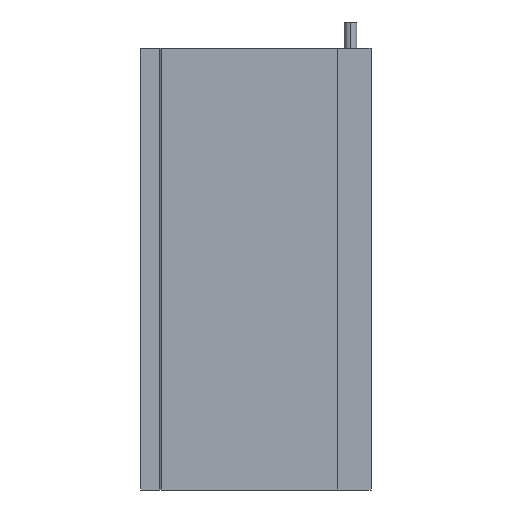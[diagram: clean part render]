
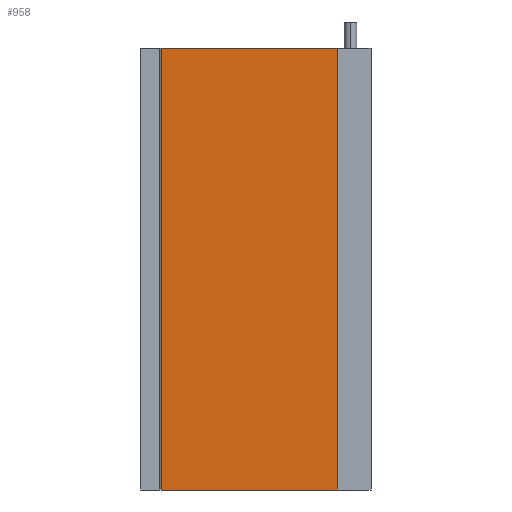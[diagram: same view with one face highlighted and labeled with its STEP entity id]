
A CAD part, left-side view. The second image highlights one B-rep face of the part: STEP entity #958.
In plain terms, the highlighted planar face has unit normal (-1, 0, 0).
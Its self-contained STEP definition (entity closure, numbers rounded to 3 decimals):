
#31 = CARTESIAN_POINT ( 'NONE',  ( -5.31, -15.5, 0. ) ) ;
#33 = DIRECTION ( 'NONE',  ( 0., -1., 0. ) ) ;
#56 = ORIENTED_EDGE ( 'NONE', *, *, #183, .T. ) ;
#123 = DIRECTION ( 'NONE',  ( 0., 1., 0. ) ) ;
#183 = EDGE_CURVE ( 'NONE', #1629, #631, #1781, .T. ) ;
#213 = DIRECTION ( 'NONE',  ( 0., -1., 0. ) ) ;
#408 = DIRECTION ( 'NONE',  ( 0., 0., -1. ) ) ;
#421 = ORIENTED_EDGE ( 'NONE', *, *, #1862, .F. ) ;
#507 = VERTEX_POINT ( 'NONE', #1021 ) ;
#558 = VERTEX_POINT ( 'NONE', #1998 ) ;
#631 = VERTEX_POINT ( 'NONE', #31 ) ;
#718 = CARTESIAN_POINT ( 'NONE',  ( -5.31, -149.9, 0. ) ) ;
#775 = CARTESIAN_POINT ( 'NONE',  ( -5.31, -15.5, 337. ) ) ;
#788 = PLANE ( 'NONE',  #889 ) ;
#794 = VECTOR ( 'NONE', #33, 1000. ) ;
#889 = AXIS2_PLACEMENT_3D ( 'NONE', #1136, #1664, #123 ) ;
#958 = ADVANCED_FACE ( 'NONE', ( #1616 ), #788, .F. ) ;
#1021 = CARTESIAN_POINT ( 'NONE',  ( -5.31, -149.9, 0. ) ) ;
#1117 = EDGE_LOOP ( 'NONE', ( #1277, #1711, #421, #56 ) ) ;
#1130 = CARTESIAN_POINT ( 'NONE',  ( -5.31, -149.9, 337. ) ) ;
#1136 = CARTESIAN_POINT ( 'NONE',  ( -5.31, -149.9, 337. ) ) ;
#1151 = VECTOR ( 'NONE', #408, 1000. ) ;
#1170 = LINE ( 'NONE', #1726, #794 ) ;
#1263 = VECTOR ( 'NONE', #1287, 1000. ) ;
#1277 = ORIENTED_EDGE ( 'NONE', *, *, #1317, .T. ) ;
#1287 = DIRECTION ( 'NONE',  ( 0., 0., -1. ) ) ;
#1317 = EDGE_CURVE ( 'NONE', #631, #507, #1693, .T. ) ;
#1572 = EDGE_CURVE ( 'NONE', #558, #507, #1896, .T. ) ;
#1616 = FACE_OUTER_BOUND ( 'NONE', #1117, .T. ) ;
#1629 = VERTEX_POINT ( 'NONE', #1977 ) ;
#1664 = DIRECTION ( 'NONE',  ( 1., 0., 0. ) ) ;
#1666 = VECTOR ( 'NONE', #213, 1000. ) ;
#1693 = LINE ( 'NONE', #718, #1666 ) ;
#1711 = ORIENTED_EDGE ( 'NONE', *, *, #1572, .F. ) ;
#1726 = CARTESIAN_POINT ( 'NONE',  ( -5.31, -149.9, 337. ) ) ;
#1781 = LINE ( 'NONE', #775, #1151 ) ;
#1862 = EDGE_CURVE ( 'NONE', #1629, #558, #1170, .T. ) ;
#1896 = LINE ( 'NONE', #1130, #1263 ) ;
#1977 = CARTESIAN_POINT ( 'NONE',  ( -5.31, -15.5, 337. ) ) ;
#1998 = CARTESIAN_POINT ( 'NONE',  ( -5.31, -149.9, 337. ) ) ;
